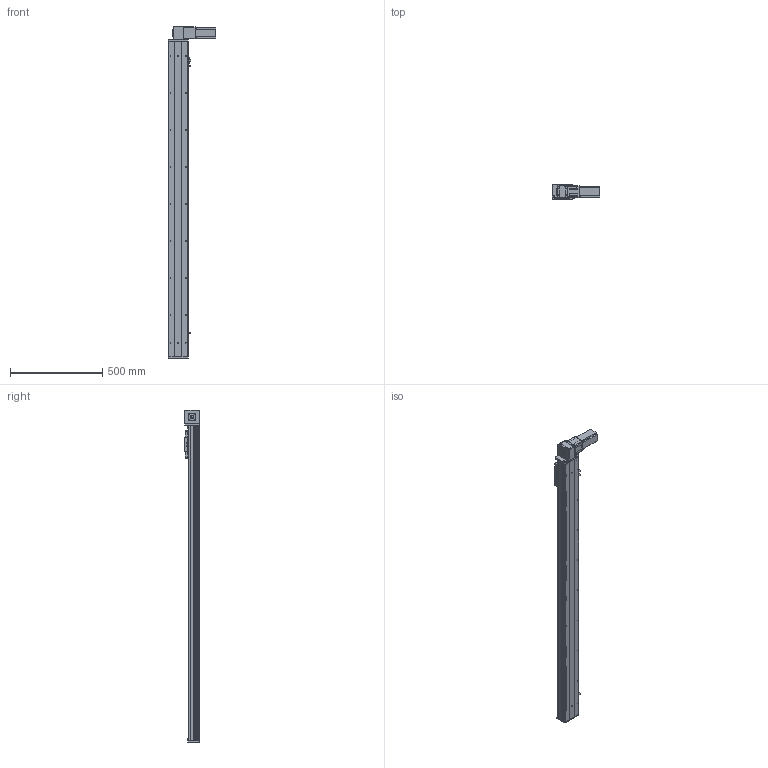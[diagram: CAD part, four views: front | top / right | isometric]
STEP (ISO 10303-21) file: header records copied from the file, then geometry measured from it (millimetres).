
FILE_DESCRIPTION (( 'STEP AP203' ), '1' );
FILE_NAME ('Y10CB-D90-S1450-BD-P400W.STEP', '2020-02-17T02:42:30', ( '微软用户' ), ( '微软中国' ), 'SwSTEP 2.0', 'SolidWorks 2017', '' );
FILE_SCHEMA (( 'CONFIG_CONTROL_DESIGN' ));
Length unit declared in the file: millimetre
Products named in the file (16): Y135C-陔俋离換覜結え-; Y10C---詩湍揤啣; 0CB-雄赽釱---; Y100-135俋离換覜ん--; 10CB9-掛极; 0Cb-俋欶---; Y10B--々湍喘謫眊--666; 10CB-耜裔; Y10B-々湍喘謫眊楊擘啣--; 0B-薊粣ん眊; san松下电机400不带刹车----; Y10CB-D90-S1450-BD-P400W; 0B-源倛裔啣; 0B-埴倛裔啣; 10CB-詩湍-; Y10CB- 掛极耜裔啣-毀---
Assembly tree (19 placements, depth 2):
  Y10CB-D90-S1450-BD-P400W
    0CB-雄赽釱---
    0Cb-俋欶---
    Y10B-々湍喘謫眊楊擘啣--
    san松下电机400不带刹车----
    0B-源倛裔啣
    0B-埴倛裔啣
    10CB-詩湍-
    Y10CB- 掛极耜裔啣-毀---  x2
    Y10C---詩湍揤啣  x2
    10CB9-掛极
    10CB-耜裔
    Y135C-陔俋离換覜結え-
    Y100-135俋离換覜ん--  x3
    Y10B--々湍喘謫眊--666
    0B-薊粣ん眊
Bounding box: 258 x 80.5 x 1796 mm (x, y, z)
Volume: 3921548.1 mm3; surface area: 1763954.3 mm2
Topology: 19 solids, 19 shells, 924 faces, 2462 edges, 1604 vertices
Faces by surface type: cylinder 460, plane 440, cone 24
Entity records: 28569 total; most frequent: CARTESIAN_POINT 5200, DIRECTION 4593, ORIENTED_EDGE 4394, EDGE_CURVE 2197, AXIS2_PLACEMENT_3D 1647, VERTEX_POINT 1430, VECTOR 1299, LINE 1299
